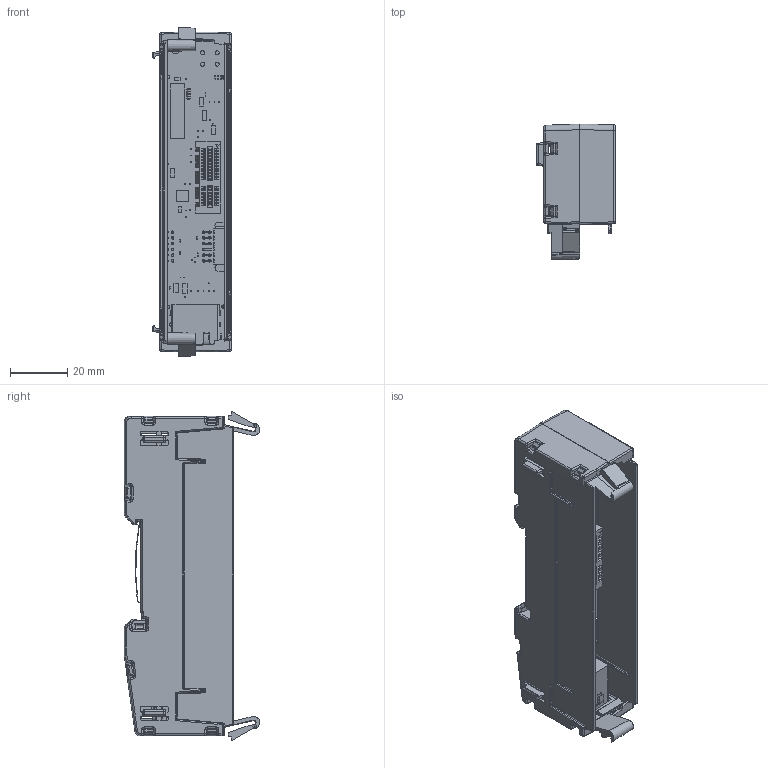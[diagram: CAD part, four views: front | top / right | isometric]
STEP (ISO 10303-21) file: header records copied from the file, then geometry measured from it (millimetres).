
FILE_DESCRIPTION(/* description */ (''),/* implementation_level */ '2;1');
FILE_NAME(/* name */ 'C:\Users\shoma\OneDrive - Brodersen\Project\3D Files\New Design\Backplane\BB21A\BB21A.stp',/* time_stamp */ '2024-10-12T21:51:04+02:00',/* author */ ('shoma'),/* organization */ (''),/* preprocessor_version */ 'ST-DEVELOPER v19',/* originating_system */ 'Autodesk Inventor 2023',/* authorisation */ '');
FILE_SCHEMA (('AUTOMOTIVE_DESIGN { 1 0 10303 214 3 1 1 }'));
Products named in the file (1): BB21A
Bounding box: 27.4 x 47.2 x 114.57 mm (x, y, z)
Volume: 25376.8 mm3; surface area: 38204.9 mm2
Topology: 7 solids, 9 shells, 4808 faces, 13481 edges, 8503 vertices
Faces by surface type: plane 2869, cylinder 1439, bspline 316, sphere 140, torus 24, cone 20
Full cylindrical faces by diameter (mm): 0.3 x36, 0.7 x36, 0.8 x6, 0.85 x24, 0.9 x8, 1.29 x1, 1.4 x4, 1.6 x2, 1.981 x1, 2.35 x2, 3 x1, 3.25 x2
Entity records: 169771 total; most frequent: CARTESIAN_POINT 40348, ORIENTED_EDGE 26714, DIRECTION 25153, EDGE_CURVE 13357, LINE 9617, VECTOR 9617, VERTEX_POINT 8503, AXIS2_PLACEMENT_3D 7768
